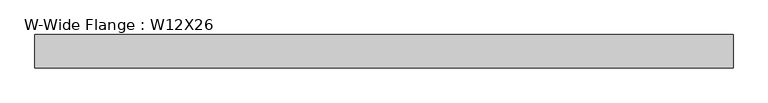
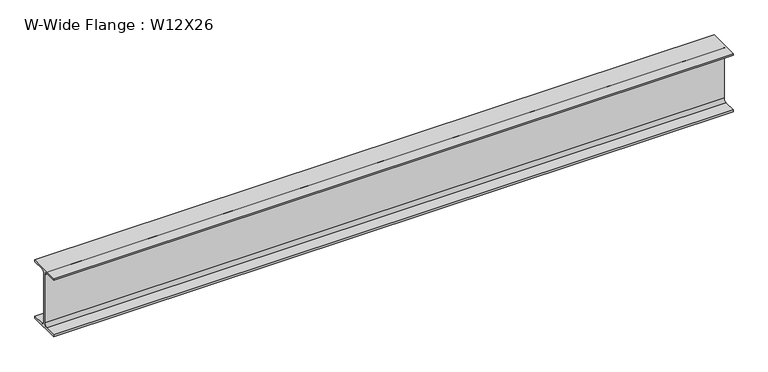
"""IFC4 building model written with IfcOpenShell, lengths in millimetres: beam geometry, W-Wide Flange : W12X26."""

from ifc_helpers import new_model, si_unit, point, frame, frame_2d, origin, place, context, project, spatial, polyline, circle_curve, trimmed, segment, composite_curve, outline, extrude, source, transform, mapped, element, save


def w_wide_flange_w12x26_53716e72(model_context):
    return source(origin(), model_context, "Body", "SweptSolid", [
        extrude(outline(composite_curve([segment(polyline([(82.4011719, -145.5539063), (82.4011719, -155.178125), (-82.4011719, -155.178125), (-82.4011719, -145.5539063), (-20.2902344, -145.5539063)]), True, "CONTINUOUS"), segment(trimmed(circle_curve(frame_2d((-20.2902344, -128.190625)), 17.3632812), [point((-20.2902344, -145.5539063))], [point((-2.9269531, -128.190625))], True, "CARTESIAN"), True, "CONTINUOUS"), segment(polyline([(-2.9269531, -128.190625), (-2.9269531, 128.190625)]), True, "CONTINUOUS"), segment(trimmed(circle_curve(frame_2d((-20.2902344, 128.190625)), 17.3632812), [point((-2.9269531, 128.190625))], [point((-20.2902344, 145.5539062))], True, "CARTESIAN"), True, "CONTINUOUS"), segment(polyline([(-20.2902344, 145.5539062), (-82.4011719, 145.5539062), (-82.4011719, 155.178125), (82.4011719, 155.178125), (82.4011719, 145.5539062), (20.2902344, 145.5539062)]), True, "CONTINUOUS"), segment(trimmed(circle_curve(frame_2d((20.2902344, 128.190625)), 17.3632812), [point((20.2902344, 145.5539062))], [point((2.9269531, 128.190625))], True, "CARTESIAN"), True, "CONTINUOUS"), segment(polyline([(2.9269531, 128.190625), (2.9269531, -128.190625)]), True, "CONTINUOUS"), segment(trimmed(circle_curve(frame_2d((20.2902344, -128.190625)), 17.3632812), [point((2.9269531, -128.190625))], [point((20.2902344, -145.5539063))], True, "CARTESIAN"), True, "CONTINUOUS"), segment(polyline([(20.2902344, -145.5539063), (82.4011719, -145.5539063)]), True, "CONTINUOUS")], self_intersect=False)), frame((-1714.5496094, 0.0, 0.0), z_axis=(1.0, 0.0, 0.0), x_axis=(0.0, 1.0, 0.0)), (0.0, 0.0, 1.0), 3429.0992187),
    ])


if __name__ == "__main__":
    model = new_model("IFC4")
    model_context = context("Model", 3, world=origin())
    ifc_project = project(units=[si_unit("LENGTHUNIT", "METRE", prefix="MILLI")], contexts=[model_context])
    site = spatial("IfcSite", under=ifc_project)
    building = spatial("IfcBuilding", under=site)
    placement = place(None, origin())
    w_wide_flange_w12x26_shape = w_wide_flange_w12x26_53716e72(model_context)
    element("IfcBeam", 1, ObjectType="W-Wide Flange : W12X26", at=placement, inside=building, context=model_context, shape_type="MappedRepresentation", body=[
        mapped(w_wide_flange_w12x26_shape, transform((0.0, 0.0, 0.0), x_axis=(1.0, 0.0, 0.0), y_axis=(0.0, 1.0, 0.0), z_axis=(0.0, 0.0, 1.0))),
    ])
    save(model, "model.ifc")
